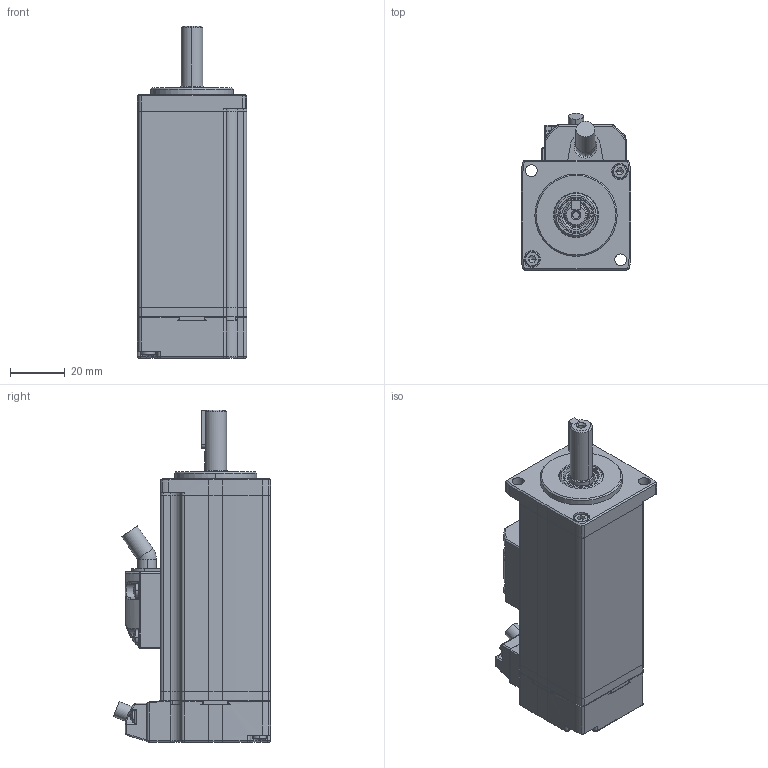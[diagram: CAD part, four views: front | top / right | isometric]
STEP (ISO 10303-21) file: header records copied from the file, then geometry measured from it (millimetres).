
FILE_DESCRIPTION (( 'STEP AP203' ), '1' );
FILE_NAME ('EM3AA5A 抱闸（永磁交流伺服抱闸电动机外形图）.STEP', '2018-12-26T02:52:25', ( '' ), ( '' ), 'SwSTEP 2.0', 'SolidWorks 2016', '' );
FILE_SCHEMA (( 'CONFIG_CONTROL_DESIGN' ));
Length unit declared in the file: millimetre
Products named in the file (1): EM3AA5A 抱闸（永磁交流伺服抱闸电动机外形图）
Bounding box: 40 x 57.22 x 121 mm (x, y, z)
Surface area: 25555.6 mm2 (no closed solid volume)
Topology: 0 solids, 26 shells, 562 faces, 1668 edges, 1091 vertices
Faces by surface type: cylinder 210, plane 207, cone 45, torus 40, sphere 38, bspline 22
Entity records: 19653 total; most frequent: CARTESIAN_POINT 4623, DIRECTION 3387, ORIENTED_EDGE 2821, EDGE_CURVE 1653, AXIS2_PLACEMENT_3D 1342, VERTEX_POINT 1091, CIRCLE 801, LINE 703
